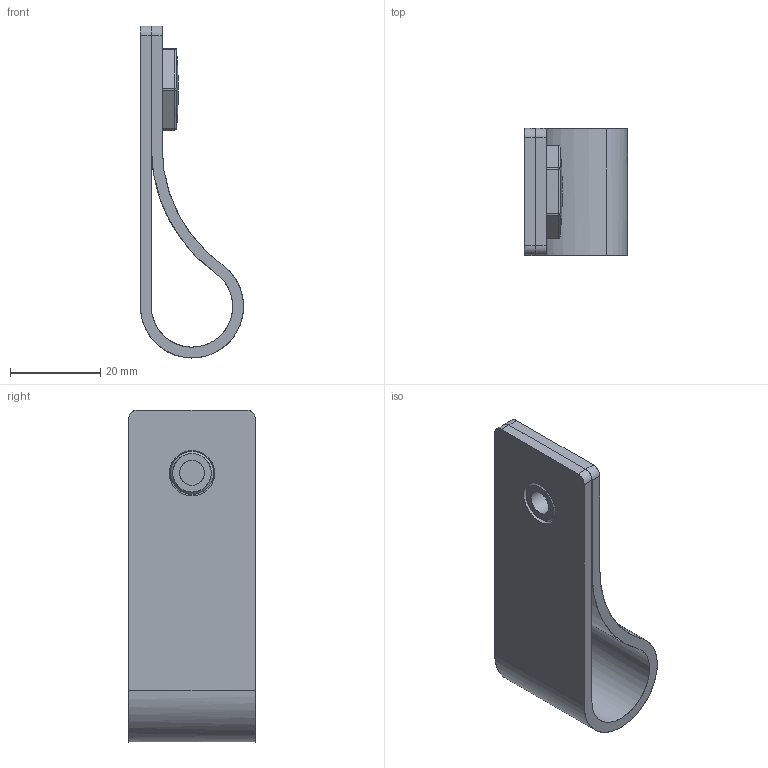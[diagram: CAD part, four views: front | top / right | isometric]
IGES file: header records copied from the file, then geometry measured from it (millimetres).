
Start section: C
Global section: file name: 8349-78.igs; native system: By Siemens PLM Incorporated; preprocessor: XPlus GENERIC/IGES 16.0.42; author: Author; organization: Title; date: 20230815.101343; units: millimetre
Bounding box: 22.8 x 28 x 73.41 mm (x, y, z)
Surface area: 10767.5 mm2 (no closed solid volume)
Topology: 0 solids, 0 shells, 49 faces, 263 edges, 262 vertices
Faces by surface type: bspline 49
